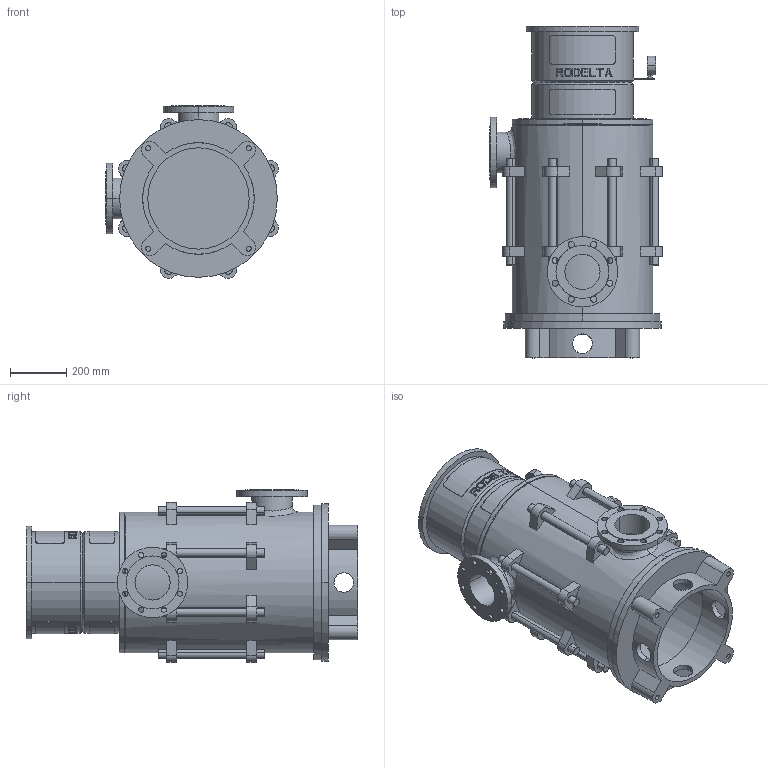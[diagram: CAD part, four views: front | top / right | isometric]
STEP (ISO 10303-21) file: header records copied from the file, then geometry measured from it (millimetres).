
FILE_DESCRIPTION((''),'2;1');
FILE_NAME('LS5_3TR_0GR_TOT_30KW','2023-08-08T',('Lyritlocal'),(''),'PRO/ENGINEER BY PARAMETRIC TECHNOLOGY CORPORATION, 2016360','PRO/ENGINEER BY PARAMETRIC TECHNOLOGY CORPORATION, 2016360','');
FILE_SCHEMA(('CONFIG_CONTROL_DESIGN'));
Length unit declared in the file: millimetre
Products named in the file (1): LS5_3TR_0GR_TOT_30KW
Bounding box: 614.04 x 1178 x 614.04 mm (x, y, z)
Volume: 34910280.9 mm3; surface area: 4909521.8 mm2
Topology: 3 solids, 7 shells, 672 faces, 1749 edges, 1158 vertices
Faces by surface type: plane 414, cylinder 242, cone 12, bspline 4
Entity records: 21969 total; most frequent: CARTESIAN_POINT 5517, ORIENTED_EDGE 3482, DIRECTION 3271, EDGE_CURVE 1749, AXIS2_PLACEMENT_3D 1241, VERTEX_POINT 1158, EDGE_LOOP 807, VECTOR 789
